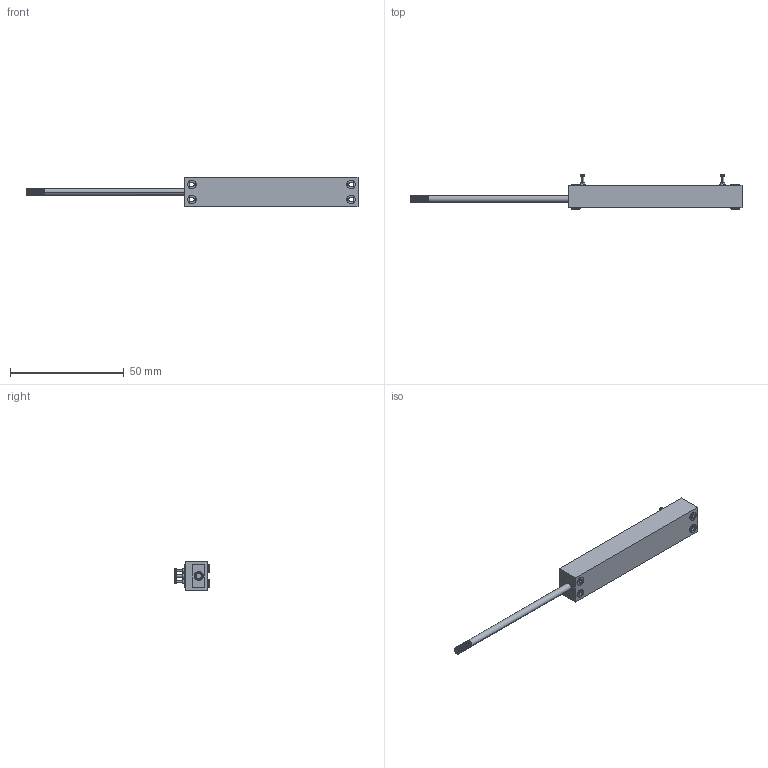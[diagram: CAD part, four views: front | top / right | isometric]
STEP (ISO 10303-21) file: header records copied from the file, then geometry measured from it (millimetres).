
FILE_DESCRIPTION (( 'STEP AP214' ), '1' );
FILE_NAME ('CLP13_50.STEP', '2016-11-28T12:50:26', ( '' ), ( '' ), 'SwSTEP 2.0', 'SolidWorks 2016', '' );
FILE_SCHEMA (( 'AUTOMOTIVE_DESIGN' ));
Length unit declared in the file: millimetre
Products named in the file (6): Taster_CLP13_50_M2; Lager_CLP13; Lötstifte_hoch_CLP13; Hohlniet_CLP13; Geheuse_CLP13-50; CLP13_50
Assembly tree (10 placements, depth 2):
  CLP13_50
    Geheuse_CLP13-50
    Hohlniet_CLP13  x4
    Lötstifte_hoch_CLP13  x3
    Lager_CLP13
    Taster_CLP13_50_M2
Bounding box: 145.8 x 15 x 13 mm (x, y, z)
Volume: 9706.3 mm3; surface area: 6392.5 mm2
Topology: 10 solids, 10 shells, 421 faces, 1044 edges, 686 vertices
Faces by surface type: plane 194, cylinder 94, bspline 91, cone 42
Entity records: 18801 total; most frequent: CARTESIAN_POINT 10130, ORIENTED_EDGE 1808, DIRECTION 1286, EDGE_CURVE 904, VERTEX_POINT 598, LINE 560, VECTOR 560, EDGE_LOOP 394
